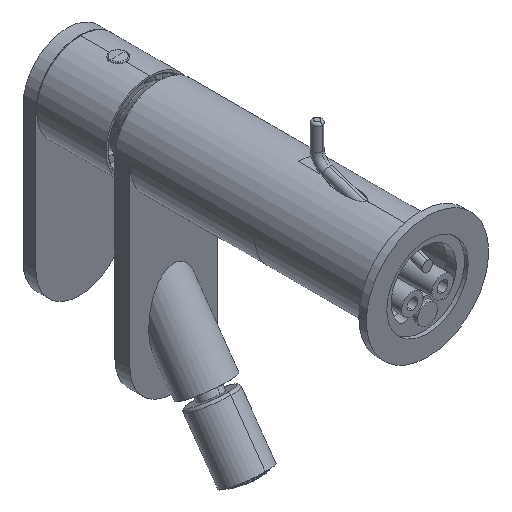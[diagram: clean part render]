
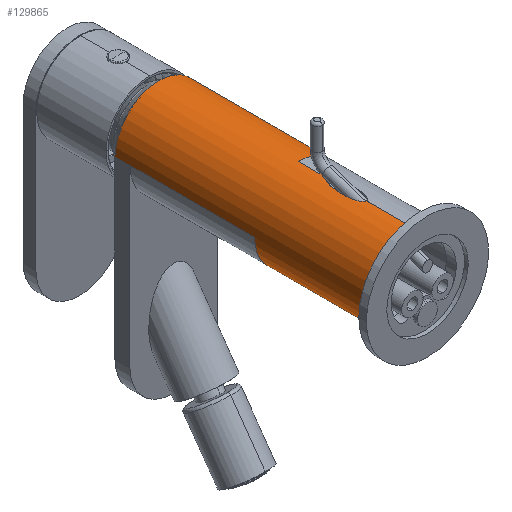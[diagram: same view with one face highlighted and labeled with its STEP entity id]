
A CAD part, isometric view. The second image highlights one B-rep face of the part: STEP entity #129865.
In plain terms, the highlighted cylindrical face has radius 17.5 mm (diameter 35 mm), a partial arc.
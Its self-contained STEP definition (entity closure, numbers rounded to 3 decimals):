
#45950=CARTESIAN_POINT('',(0.,-48.5,0.));
#45951=DIRECTION('',(0.,-1.,0.));
#45952=DIRECTION('',(0.,0.,1.));
#45953=AXIS2_PLACEMENT_3D('',#45950,#45951,#45952);
#45955=CARTESIAN_POINT('',(0.,0.,0.));
#45956=DIRECTION('',(0.,-1.,0.));
#45957=DIRECTION('',(1.,0.,0.));
#45958=AXIS2_PLACEMENT_3D('',#45955,#45956,#45957);
#45960=CARTESIAN_POINT('',(0.,-27.24,17.5));
#45961=CARTESIAN_POINT('',(-0.028,-27.24,17.5));
#45962=CARTESIAN_POINT('',(-0.083,-27.238,
17.5));
#45963=CARTESIAN_POINT('',(-0.167,-27.226,
17.499));
#45964=CARTESIAN_POINT('',(-0.251,-27.206,
17.498));
#45965=CARTESIAN_POINT('',(-0.338,-27.177,
17.497));
#45966=CARTESIAN_POINT('',(-0.427,-27.139,
17.495));
#45967=CARTESIAN_POINT('',(-0.519,-27.089,
17.492));
#45968=CARTESIAN_POINT('',(-0.615,-27.027,
17.489));
#45969=CARTESIAN_POINT('',(-0.715,-26.949,
17.485));
#45970=CARTESIAN_POINT('',(-0.819,-26.855,
17.481));
#45971=CARTESIAN_POINT('',(-0.929,-26.74,
17.475));
#45972=CARTESIAN_POINT('',(-1.044,-26.6,
17.469));
#45973=CARTESIAN_POINT('',(-1.164,-26.433,
17.461));
#45974=CARTESIAN_POINT('',(-1.289,-26.233,
17.453));
#45975=CARTESIAN_POINT('',(-1.417,-25.999,
17.443));
#45976=CARTESIAN_POINT('',(-1.547,-25.724,
17.432));
#45977=CARTESIAN_POINT('',(-1.679,-25.402,
17.419));
#45978=CARTESIAN_POINT('',(-1.81,-25.029,
17.406));
#45979=CARTESIAN_POINT('',(-1.941,-24.596,
17.392));
#45980=CARTESIAN_POINT('',(-2.067,-24.096,
17.378));
#45981=CARTESIAN_POINT('',(-2.187,-23.519,
17.363));
#45982=CARTESIAN_POINT('',(-2.296,-22.854,
17.349));
#45983=CARTESIAN_POINT('',(-2.39,-22.085,
17.336));
#45984=CARTESIAN_POINT('',(-2.462,-21.2,
17.326));
#45985=CARTESIAN_POINT('',(-2.501,-20.224,
17.32));
#45986=CARTESIAN_POINT('',(-2.502,-19.196,
17.32));
#45987=CARTESIAN_POINT('',(-2.46,-18.134,
17.326));
#45988=CARTESIAN_POINT('',(-2.384,-17.163,
17.337));
#45989=CARTESIAN_POINT('',(-2.29,-16.332,
17.35));
#45990=CARTESIAN_POINT('',(-2.183,-15.602,
17.363));
#45991=CARTESIAN_POINT('',(-2.068,-14.963,
17.378));
#45992=CARTESIAN_POINT('',(-1.948,-14.401,
17.391));
#45993=CARTESIAN_POINT('',(-1.826,-13.908,
17.405));
#45994=CARTESIAN_POINT('',(-1.704,-13.476,
17.417));
#45995=CARTESIAN_POINT('',(-1.582,-13.098,
17.429));
#45996=CARTESIAN_POINT('',(-1.461,-12.767,
17.439));
#45997=CARTESIAN_POINT('',(-1.343,-12.479,
17.449));
#45998=CARTESIAN_POINT('',(-1.227,-12.229,
17.457));
#45999=CARTESIAN_POINT('',(-1.114,-12.013,
17.465));
#46000=CARTESIAN_POINT('',(-1.005,-11.828,
17.471));
#46001=CARTESIAN_POINT('',(-0.9,-11.67,
17.477));
#46002=CARTESIAN_POINT('',(-0.799,-11.537,
17.482));
#46003=CARTESIAN_POINT('',(-0.701,-11.426,
17.486));
#46004=CARTESIAN_POINT('',(-0.609,-11.334,
17.489));
#46005=CARTESIAN_POINT('',(-0.521,-11.26,
17.492));
#46006=CARTESIAN_POINT('',(-0.438,-11.2,
17.495));
#46007=CARTESIAN_POINT('',(-0.359,-11.153,
17.496));
#46008=CARTESIAN_POINT('',(-0.284,-11.118,
17.498));
#46009=CARTESIAN_POINT('',(-0.212,-11.092,
17.499));
#46010=CARTESIAN_POINT('',(-0.142,-11.073,
17.499));
#46011=CARTESIAN_POINT('',(-0.071,-11.062,
17.5));
#46012=CARTESIAN_POINT('',(-0.024,-11.06,17.5));
#46013=CARTESIAN_POINT('',(0.,-11.06,17.5));
#47990=DIRECTION('',(0.,-1.,0.));
#47991=VECTOR('',#47990,21.26);
#47992=CARTESIAN_POINT('',(0.,-27.24,17.5));
#47993=LINE('',#47992,#47991);
#48049=DIRECTION('',(0.,-1.,0.));
#48050=VECTOR('',#48049,11.06);
#48051=CARTESIAN_POINT('',(0.,0.,17.5));
#48052=LINE('',#48051,#48050);
#48053=DIRECTION('',(0.,-1.,0.));
#48054=VECTOR('',#48053,49.7);
#48055=CARTESIAN_POINT('',(17.5,49.7,0.));
#48056=LINE('',#48055,#48054);
#48062=DIRECTION('',(0.,-1.,0.));
#48063=VECTOR('',#48062,49.7);
#48064=CARTESIAN_POINT('',(-17.5,49.7,0.));
#48065=LINE('',#48064,#48063);
#48066=CARTESIAN_POINT('',(0.,0.,0.));
#48067=DIRECTION('',(0.,-1.,0.));
#48068=DIRECTION('',(-1.,0.,0.));
#48069=AXIS2_PLACEMENT_3D('',#48066,#48067,#48068);
#48071=DIRECTION('',(0.,-1.,0.));
#48072=VECTOR('',#48071,48.5);
#48073=CARTESIAN_POINT('',(0.,0.,-17.5));
#48074=LINE('',#48073,#48072);
#48122=DIRECTION('',(0.,1.,0.));
#48123=VECTOR('',#48122,6.);
#48124=CARTESIAN_POINT('',(17.5,49.7,0.));
#48125=LINE('',#48124,#48123);
#48130=DIRECTION('',(0.,-1.,0.));
#48131=VECTOR('',#48130,6.);
#48132=CARTESIAN_POINT('',(-17.5,55.7,0.));
#48133=LINE('',#48132,#48131);
#48138=CARTESIAN_POINT('',(0.,55.7,0.));
#48139=DIRECTION('',(0.,1.,0.));
#48140=DIRECTION('',(-1.,0.,0.));
#48141=AXIS2_PLACEMENT_3D('',#48138,#48139,#48140);
#72942=VERTEX_POINT('',#45960);
#72943=VERTEX_POINT('',#46013);
#72944=CARTESIAN_POINT('',(-17.5,0.,0.));
#72945=CARTESIAN_POINT('',(0.,0.,-17.5));
#72946=VERTEX_POINT('',#72944);
#72947=VERTEX_POINT('',#72945);
#72948=CARTESIAN_POINT('',(17.5,0.,0.));
#72949=CARTESIAN_POINT('',(0.,0.,17.5));
#72950=VERTEX_POINT('',#72948);
#72951=VERTEX_POINT('',#72949);
#72980=CARTESIAN_POINT('',(-17.5,55.7,0.));
#72981=CARTESIAN_POINT('',(17.5,55.7,0.));
#72982=VERTEX_POINT('',#72980);
#72983=VERTEX_POINT('',#72981);
#73020=CARTESIAN_POINT('',(17.5,49.7,0.));
#73021=CARTESIAN_POINT('',(-17.5,49.7,0.));
#73022=VERTEX_POINT('',#73020);
#73023=VERTEX_POINT('',#73021);
#75452=CARTESIAN_POINT('',(0.,-48.5,17.5));
#75453=CARTESIAN_POINT('',(0.,-48.5,-17.5));
#75454=VERTEX_POINT('',#75452);
#75455=VERTEX_POINT('',#75453);
#129835=CARTESIAN_POINT('',(0.,-2.485,0.));
#129836=DIRECTION('',(0.,1.,0.));
#129837=DIRECTION('',(1.,0.,0.));
#129838=AXIS2_PLACEMENT_3D('',#129835,#129836,#129837);
#129839=CYLINDRICAL_SURFACE('',#129838,17.5);
#129841=ORIENTED_EDGE('',*,*,#129840,.T.);
#129843=ORIENTED_EDGE('',*,*,#129842,.F.);
#129845=ORIENTED_EDGE('',*,*,#129844,.F.);
#129847=ORIENTED_EDGE('',*,*,#129846,.F.);
#129849=ORIENTED_EDGE('',*,*,#129848,.F.);
#129851=ORIENTED_EDGE('',*,*,#129850,.T.);
#129853=ORIENTED_EDGE('',*,*,#129852,.F.);
#129855=ORIENTED_EDGE('',*,*,#129854,.T.);
#129857=ORIENTED_EDGE('',*,*,#129856,.T.);
#129859=ORIENTED_EDGE('',*,*,#129858,.T.);
#129860=ORIENTED_EDGE('',*,*,#129829,.F.);
#129862=ORIENTED_EDGE('',*,*,#129861,.T.);
#129863=EDGE_LOOP('',(#129841,#129843,#129845,#129847,#129849,#129851,#129853,
#129855,#129857,#129859,#129860,#129862));
#129864=FACE_OUTER_BOUND('',#129863,.F.);
#129865=ADVANCED_FACE('',(#129864),#129839,.T.);
#45954=CIRCLE('',#45953,17.5);
#45959=CIRCLE('',#45958,17.5);
#46014=B_SPLINE_CURVE_WITH_KNOTS('',3,(#45960,#45961,#45962,#45963,#45964,
#45965,#45966,#45967,#45968,#45969,#45970,#45971,#45972,#45973,#45974,#45975,
#45976,#45977,#45978,#45979,#45980,#45981,#45982,#45983,#45984,#45985,#45986,
#45987,#45988,#45989,#45990,#45991,#45992,#45993,#45994,#45995,#45996,#45997,
#45998,#45999,#46000,#46001,#46002,#46003,#46004,#46005,#46006,#46007,#46008,
#46009,#46010,#46011,#46012,#46013),.UNSPECIFIED.,.F.,.F.,(4,1,1,1,1,1,1,1,1,1,
1,1,1,1,1,1,1,1,1,1,1,1,1,1,1,1,1,1,1,1,1,1,1,1,1,1,1,1,1,1,1,1,1,1,1,1,1,1,1,1,
1,4),(0.,0.02,0.039,0.059,
0.078,0.098,0.118,0.137,
0.157,0.176,0.196,0.216,
0.235,0.255,0.275,0.294,
0.314,0.333,0.353,0.373,
0.392,0.412,0.431,0.451,
0.471,0.49,0.51,0.529,
0.549,0.569,0.588,0.608,
0.627,0.647,0.667,0.686,
0.706,0.725,0.745,0.765,
0.784,0.804,0.824,0.843,
0.863,0.882,0.902,0.922,
0.941,0.961,0.98,1.),.UNSPECIFIED.);
#48070=CIRCLE('',#48069,17.5);
#48142=CIRCLE('',#48141,17.5);
#129829=EDGE_CURVE('',#72942,#72943,#46014,.T.);
#129840=EDGE_CURVE('',#75454,#75455,#45954,.T.);
#129842=EDGE_CURVE('',#72947,#75455,#48074,.T.);
#129844=EDGE_CURVE('',#72946,#72947,#48070,.T.);
#129846=EDGE_CURVE('',#73023,#72946,#48065,.T.);
#129848=EDGE_CURVE('',#72982,#73023,#48133,.T.);
#129850=EDGE_CURVE('',#72982,#72983,#48142,.T.);
#129852=EDGE_CURVE('',#73022,#72983,#48125,.T.);
#129854=EDGE_CURVE('',#73022,#72950,#48056,.T.);
#129856=EDGE_CURVE('',#72950,#72951,#45959,.T.);
#129858=EDGE_CURVE('',#72951,#72943,#48052,.T.);
#129861=EDGE_CURVE('',#72942,#75454,#47993,.T.);
